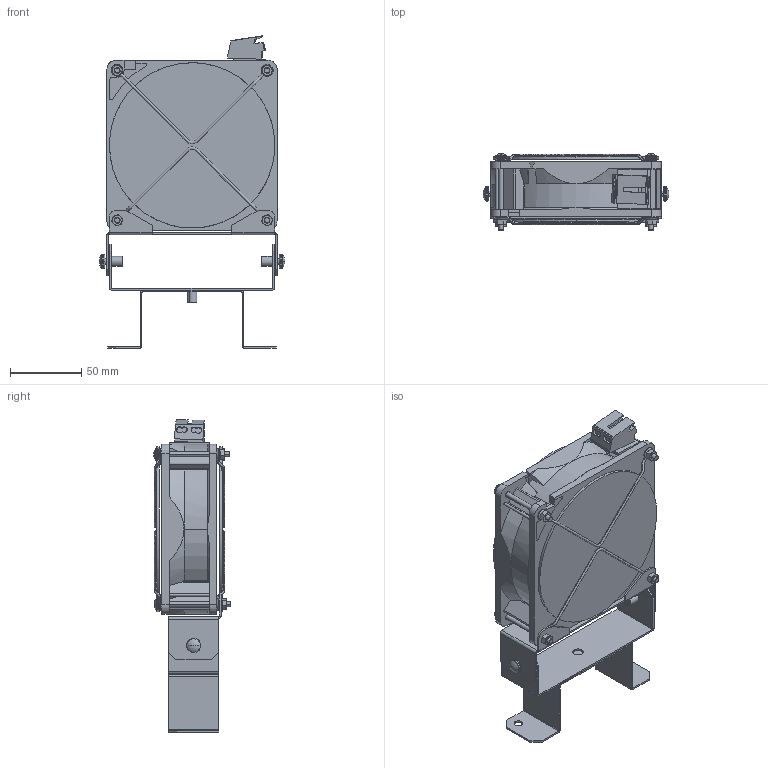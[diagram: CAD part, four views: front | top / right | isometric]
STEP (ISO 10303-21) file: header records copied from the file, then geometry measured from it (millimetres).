
FILE_DESCRIPTION (( 'STEP AP214' ), '1' );
FILE_NAME ('OF-4715KL 05WB30E.STEP', '2024-09-02T13:39:15', ( '' ), ( '' ), 'SwSTEP 2.0', 'SolidWorks 2022', '' );
FILE_SCHEMA (( 'AUTOMOTIVE_DESIGN' ));
Length unit declared in the file: millimetre
Products named in the file (15): SK 3108.100_STAFFA INF_assieme semplificato; DT-03892DSI_Semplificata; inserto M5_semplificata; DO-UNI5588-M4_Semplificata; OF-4715KL 05WB30E; STAFFA MEDIA_semplificata; STAFFA SUP_semplificata; SK 3108.100_staffe_vent_orient_assieme semplificato; STAFFA INF_semplificata; VT-UNI7687-PhM4X50-Zn; DT-01853DSI_Semplificata; LK_980-01-2_Semplificata; VT-DIN7985-M5X12-A2_Semplificata; SK 3108.100_STAFFA MED_assieme semplificato; DT-02371DSI_Semplificato
Assembly tree (24 placements, depth 4):
  OF-4715KL 05WB30E
    SK 3108.100_staffe_vent_orient_assieme semplificato
      STAFFA SUP_semplificata
      SK 3108.100_STAFFA INF_assieme semplificato
        inserto M5_semplificata
        STAFFA INF_semplificata
      SK 3108.100_STAFFA MED_assieme semplificato
        inserto M5_semplificata  x2
        STAFFA MEDIA_semplificata
    VT-DIN7985-M5X12-A2_Semplificata  x2
    DT-01853DSI_Semplificata  x2
    VT-UNI7687-PhM4X50-Zn  x4
    DO-UNI5588-M4_Semplificata  x4
    DT-03892DSI_Semplificata
    LK_980-01-2_Semplificata
    DT-02371DSI_Semplificato
Bounding box: 130 x 53.32 x 218.55 mm (x, y, z)
Volume: 77143.8 mm3; surface area: 152331.1 mm2
Topology: 20 solids, 21 shells, 699 faces, 1850 edges, 1214 vertices
Faces by surface type: plane 329, cylinder 164, cone 97, bspline 80, torus 17, sphere 12
Entity records: 28031 total; most frequent: CARTESIAN_POINT 12955, ORIENTED_EDGE 2536, DIRECTION 2063, EDGE_CURVE 1268, VERTEX_POINT 838, AXIS2_PLACEMENT_3D 714, VECTOR 635, LINE 635
